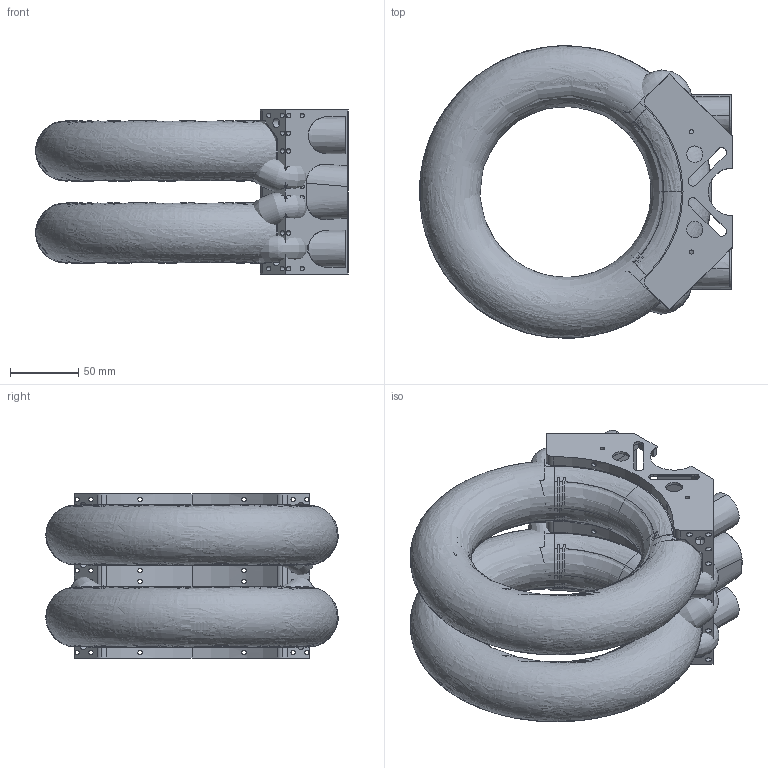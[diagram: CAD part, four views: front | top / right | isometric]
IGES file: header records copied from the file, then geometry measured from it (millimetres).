
Start section: IMSI TurboCAD v14.0
Global section: author: NULL; organization: NULL; date: 20231227.191134; units: millimetre
Bounding box: 228.9 x 213.92 x 120 mm (x, y, z)
Surface area: 2192316 mm2 (no closed solid volume)
Topology: 0 solids, 0 shells, 930 faces, 6138 edges, 6091 vertices
Faces by surface type: revolution 630, extrusion 292, bspline 8
